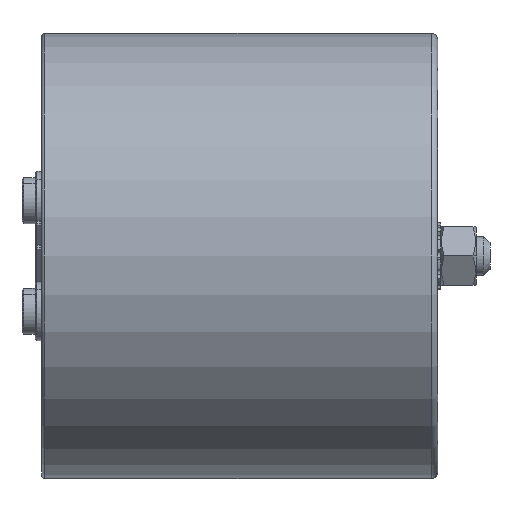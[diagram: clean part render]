
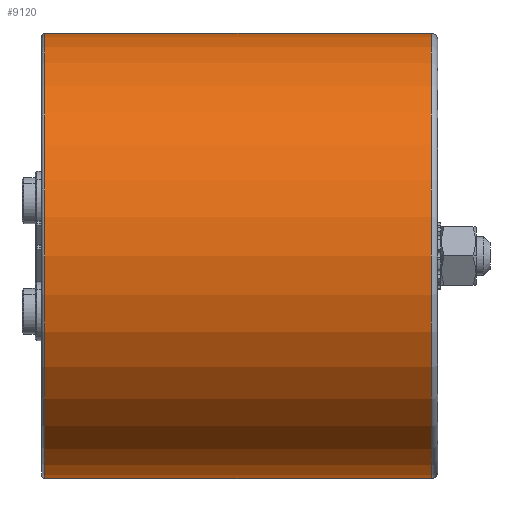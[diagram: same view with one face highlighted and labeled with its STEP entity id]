
A CAD part, left-side view. The second image highlights one B-rep face of the part: STEP entity #9120.
In plain terms, the highlighted cylindrical face has radius 68 mm (diameter 136 mm), a partial arc.
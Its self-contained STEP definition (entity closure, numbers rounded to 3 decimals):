
#441 = AXIS2_PLACEMENT_3D ( 'NONE', #6012, #6628, #3855 ) ;
#553 = AXIS2_PLACEMENT_3D ( 'NONE', #6678, #3817, #3043 ) ;
#768 = EDGE_LOOP ( 'NONE', ( #9280, #2808, #6797, #3278 ) ) ;
#948 = CIRCLE ( 'NONE', #553, 68. ) ;
#1043 = EDGE_CURVE ( 'NONE', #2386, #1296, #3204, .T. ) ;
#1296 = VERTEX_POINT ( 'NONE', #7317 ) ;
#1414 = CIRCLE ( 'NONE', #3789, 68. ) ;
#1591 = CARTESIAN_POINT ( 'NONE',  ( 0., -119., 68. ) ) ;
#2386 = VERTEX_POINT ( 'NONE', #1591 ) ;
#2697 = DIRECTION ( 'NONE',  ( 0., -1., 0. ) ) ;
#2808 = ORIENTED_EDGE ( 'NONE', *, *, #1043, .T. ) ;
#2963 = CYLINDRICAL_SURFACE ( 'NONE', #441, 68. ) ;
#3011 = CARTESIAN_POINT ( 'NONE',  ( 0., -1., -68. ) ) ;
#3043 = DIRECTION ( 'NONE',  ( 0., 0., -1. ) ) ;
#3105 = VERTEX_POINT ( 'NONE', #5321 ) ;
#3204 = LINE ( 'NONE', #3533, #7562 ) ;
#3278 = ORIENTED_EDGE ( 'NONE', *, *, #6869, .F. ) ;
#3533 = CARTESIAN_POINT ( 'NONE',  ( 0., -55., 68. ) ) ;
#3776 = VECTOR ( 'NONE', #7078, 1000. ) ;
#3789 = AXIS2_PLACEMENT_3D ( 'NONE', #7036, #2697, #6914 ) ;
#3817 = DIRECTION ( 'NONE',  ( 0., 1., 0. ) ) ;
#3855 = DIRECTION ( 'NONE',  ( 0., 0., -1. ) ) ;
#4179 = DIRECTION ( 'NONE',  ( 0., 1., 0. ) ) ;
#5321 = CARTESIAN_POINT ( 'NONE',  ( 0., -119., -68. ) ) ;
#5539 = CARTESIAN_POINT ( 'NONE',  ( 0., -55., -68. ) ) ;
#5666 = LINE ( 'NONE', #5539, #3776 ) ;
#5694 = EDGE_CURVE ( 'NONE', #1296, #7575, #1414, .T. ) ;
#6012 = CARTESIAN_POINT ( 'NONE',  ( 0., -55., 0. ) ) ;
#6628 = DIRECTION ( 'NONE',  ( 0., 1., 0. ) ) ;
#6678 = CARTESIAN_POINT ( 'NONE',  ( 0., -119., 0. ) ) ;
#6797 = ORIENTED_EDGE ( 'NONE', *, *, #5694, .T. ) ;
#6869 = EDGE_CURVE ( 'NONE', #3105, #7575, #5666, .T. ) ;
#6914 = DIRECTION ( 'NONE',  ( 0., 0., 1. ) ) ;
#7036 = CARTESIAN_POINT ( 'NONE',  ( 0., -1., 0. ) ) ;
#7078 = DIRECTION ( 'NONE',  ( 0., 1., 0. ) ) ;
#7317 = CARTESIAN_POINT ( 'NONE',  ( 0., -1., 68. ) ) ;
#7562 = VECTOR ( 'NONE', #4179, 1000. ) ;
#7575 = VERTEX_POINT ( 'NONE', #3011 ) ;
#7709 = EDGE_CURVE ( 'NONE', #3105, #2386, #948, .T. ) ;
#8659 = FACE_OUTER_BOUND ( 'NONE', #768, .T. ) ;
#9120 = ADVANCED_FACE ( 'NONE', ( #8659 ), #2963, .T. ) ;
#9280 = ORIENTED_EDGE ( 'NONE', *, *, #7709, .T. ) ;
